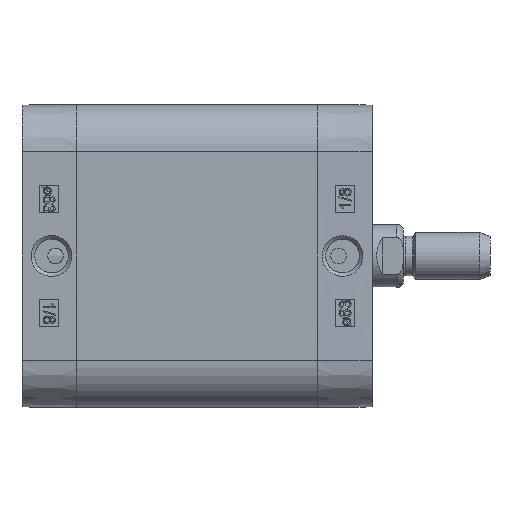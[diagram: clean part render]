
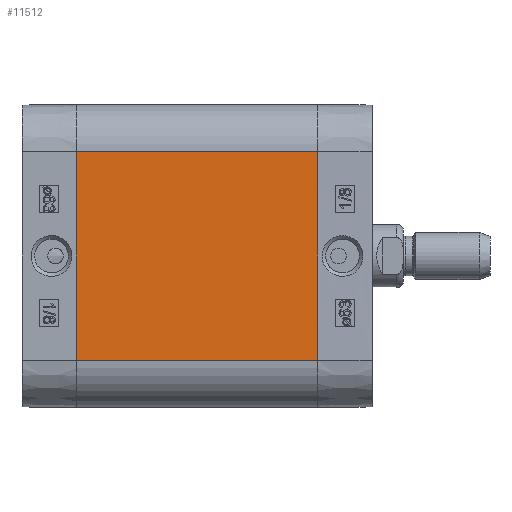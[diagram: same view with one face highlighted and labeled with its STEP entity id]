
A CAD part, left-side view. The second image highlights one B-rep face of the part: STEP entity #11512.
In plain terms, the highlighted planar face has unit normal (-1, 0, 0).
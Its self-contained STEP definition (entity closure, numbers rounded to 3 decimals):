
#5842=CARTESIAN_POINT('',(-38.5,-61.5,26.5));
#5843=VERTEX_POINT('',#5842);
#5850=CARTESIAN_POINT('',(-38.5,-61.5,-26.5));
#5851=VERTEX_POINT('',#5850);
#5852=CARTESIAN_POINT('',(-38.5,-61.5,-26.5));
#5853=DIRECTION('',(0.0,0.0,1.0));
#5854=VECTOR('',#5853,53.0);
#5855=LINE('',#5852,#5854);
#5856=EDGE_CURVE('',#5851,#5843,#5855,.T.);
#11470=CARTESIAN_POINT('',(-38.5,0.0,-26.5));
#11471=VERTEX_POINT('',#11470);
#11472=CARTESIAN_POINT('',(-38.5,0.0,-26.5));
#11473=DIRECTION('',(0.0,-1.0,0.0));
#11474=VECTOR('',#11473,61.5);
#11475=LINE('',#11472,#11474);
#11476=EDGE_CURVE('',#11471,#5851,#11475,.T.);
#11489=CARTESIAN_POINT('',(-38.5,0.0,-26.5));
#11490=DIRECTION('',(-1.0,0.0,0.0));
#11491=DIRECTION('',(0.0,0.0,1.0));
#11492=AXIS2_PLACEMENT_3D('',#11489,#11490,#11491);
#11493=PLANE('',#11492);
#11494=ORIENTED_EDGE('',*,*,#5856,.T.);
#11495=CARTESIAN_POINT('',(-38.5,0.0,26.5));
#11496=VERTEX_POINT('',#11495);
#11497=CARTESIAN_POINT('',(-38.5,0.0,26.5));
#11498=DIRECTION('',(0.0,-1.0,0.0));
#11499=VECTOR('',#11498,61.5);
#11500=LINE('',#11497,#11499);
#11501=EDGE_CURVE('',#11496,#5843,#11500,.T.);
#11502=ORIENTED_EDGE('',*,*,#11501,.F.);
#11503=CARTESIAN_POINT('',(-38.5,0.0,-26.5));
#11504=DIRECTION('',(0.0,0.0,1.0));
#11505=VECTOR('',#11504,53.0);
#11506=LINE('',#11503,#11505);
#11507=EDGE_CURVE('',#11471,#11496,#11506,.T.);
#11508=ORIENTED_EDGE('',*,*,#11507,.F.);
#11509=ORIENTED_EDGE('',*,*,#11476,.T.);
#11510=EDGE_LOOP('',(#11494,#11502,#11508,#11509));
#11511=FACE_OUTER_BOUND('',#11510,.T.);
#11512=ADVANCED_FACE('',(#11511),#11493,.T.);
